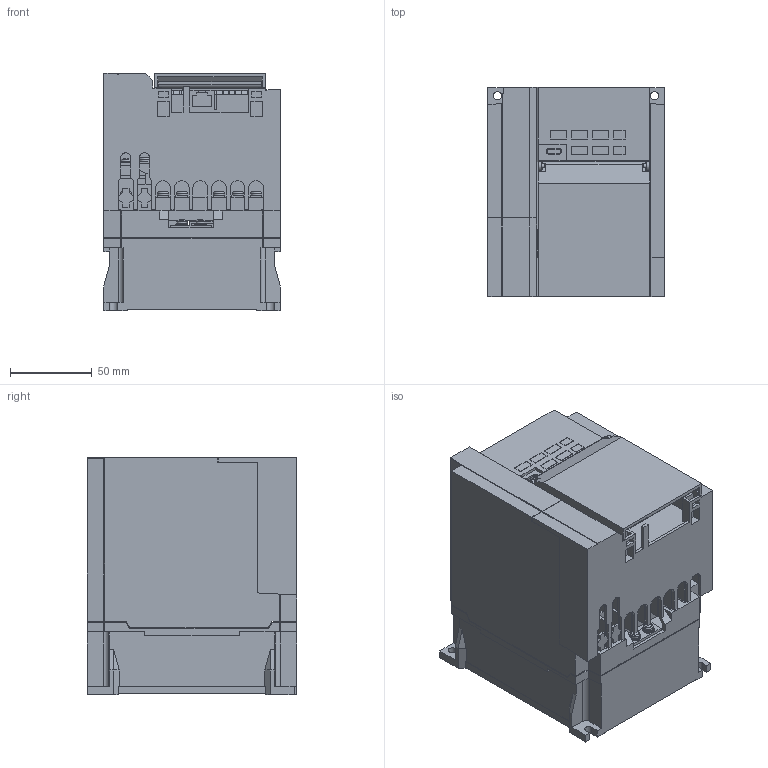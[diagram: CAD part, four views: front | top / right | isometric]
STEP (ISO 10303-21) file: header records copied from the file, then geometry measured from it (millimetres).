
FILE_DESCRIPTION((''),'2;1');
FILE_NAME('3D-INV-53_05_ASM','2024-11-26T16:18:05',('CT89920'),(''),'CREO PARAMETRIC BY PTC INC, 2022281','CREO PARAMETRIC BY PTC INC, 2022281','');
FILE_SCHEMA(('CONFIG_CONTROL_DESIGN','SHAPE_APPEARANCE_LAYERS_GROUPS'));
Length unit declared in the file: millimetre
Products named in the file (9): 3D-BASE-53_05E; 3D-FAN_UNIT-51_05; 3D-TE_SHORT-31_06; 3D-TE_NEJI-M4X8-ZA7; 3D-TE-NEJI-34_05_ASM; 3D-SW-PW-P-M3_5X10; 3D-W_COV-53_04; 3D-S_COV-D80-1_5; 3D-INV-53_05_ASM
Assembly tree (17 placements, depth 3):
  3D-INV-53_05_ASM
    3D-BASE-53_05E
    3D-FAN_UNIT-51_05
    3D-TE-NEJI-34_05_ASM
      3D-TE_SHORT-31_06
      3D-TE_NEJI-M4X8-ZA7  x9
    3D-SW-PW-P-M3_5X10  x2
    3D-W_COV-53_04
    3D-S_COV-D80-1_5
Bounding box: 108 x 128 x 145 mm (x, y, z)
Volume: 727136.5 mm3; surface area: 268030.5 mm2
Topology: 16 solids, 17 shells, 1285 faces, 3481 edges, 2246 vertices
Faces by surface type: plane 1059, cylinder 158, torus 24, cone 22, sphere 22
Entity records: 44152 total; most frequent: CARTESIAN_POINT 6378, ORIENTED_EDGE 6282, DIRECTION 5778, EDGE_CURVE 3141, VECTOR 2822, LINE 2822, VERTEX_POINT 2059, PRESENTATION_STYLE_ASSIGNMENT 1728
